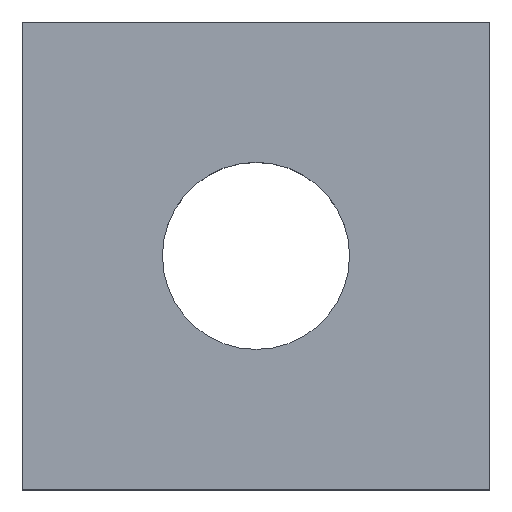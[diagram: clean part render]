
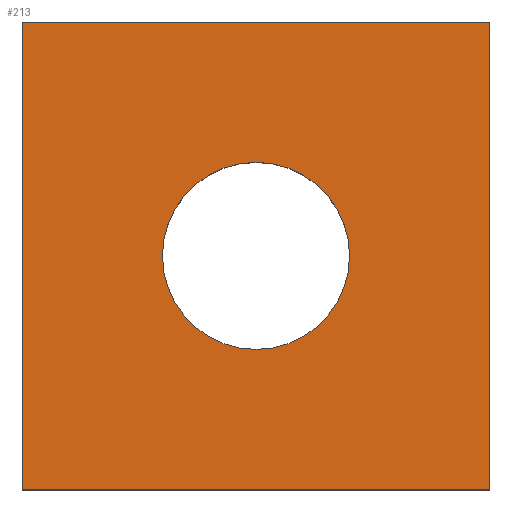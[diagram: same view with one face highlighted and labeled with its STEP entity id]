
A CAD part, top view. The second image highlights one B-rep face of the part: STEP entity #213.
In plain terms, the highlighted planar face has unit normal (0, 0, 1).
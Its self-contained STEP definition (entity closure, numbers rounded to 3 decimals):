
#24 = VERTEX_POINT('',#25);
#25 = CARTESIAN_POINT('',(-6.,-6.,3.5));
#32 = PLANE('',#33);
#33 = AXIS2_PLACEMENT_3D('',#34,#35,#36);
#34 = CARTESIAN_POINT('',(-6.,-6.,0.));
#35 = DIRECTION('',(1.,0.,-0.));
#36 = DIRECTION('',(0.,0.,1.));
#44 = PLANE('',#45);
#45 = AXIS2_PLACEMENT_3D('',#46,#47,#48);
#46 = CARTESIAN_POINT('',(-6.,-6.,0.));
#47 = DIRECTION('',(-0.,1.,0.));
#48 = DIRECTION('',(0.,0.,1.));
#85 = VERTEX_POINT('',#86);
#86 = CARTESIAN_POINT('',(-6.,6.,3.5));
#100 = PLANE('',#101);
#101 = AXIS2_PLACEMENT_3D('',#102,#103,#104);
#102 = CARTESIAN_POINT('',(-6.,6.,0.));
#103 = DIRECTION('',(-0.,1.,0.));
#104 = DIRECTION('',(0.,0.,1.));
#112 = EDGE_CURVE('',#24,#85,#113,.T.);
#113 = SURFACE_CURVE('',#114,(#118,#125),.PCURVE_S1.);
#114 = LINE('',#115,#116);
#115 = CARTESIAN_POINT('',(-6.,-6.,3.5));
#116 = VECTOR('',#117,1.);
#117 = DIRECTION('',(-0.,1.,0.));
#118 = PCURVE('',#32,#119);
#119 = DEFINITIONAL_REPRESENTATION('',(#120),#124);
#120 = LINE('',#121,#122);
#121 = CARTESIAN_POINT('',(3.5,0.));
#122 = VECTOR('',#123,1.);
#123 = DIRECTION('',(0.,-1.));
#124 = ( GEOMETRIC_REPRESENTATION_CONTEXT(2) 
PARAMETRIC_REPRESENTATION_CONTEXT() REPRESENTATION_CONTEXT('2D SPACE',''
  ) );
#125 = PCURVE('',#126,#131);
#126 = PLANE('',#127);
#127 = AXIS2_PLACEMENT_3D('',#128,#129,#130);
#128 = CARTESIAN_POINT('',(-6.,-6.,3.5));
#129 = DIRECTION('',(0.,0.,1.));
#130 = DIRECTION('',(1.,0.,-0.));
#131 = DEFINITIONAL_REPRESENTATION('',(#132),#136);
#132 = LINE('',#133,#134);
#133 = CARTESIAN_POINT('',(0.,0.));
#134 = VECTOR('',#135,1.);
#135 = DIRECTION('',(0.,1.));
#136 = ( GEOMETRIC_REPRESENTATION_CONTEXT(2) 
PARAMETRIC_REPRESENTATION_CONTEXT() REPRESENTATION_CONTEXT('2D SPACE',''
  ) );
#165 = EDGE_CURVE('',#24,#166,#168,.T.);
#166 = VERTEX_POINT('',#167);
#167 = CARTESIAN_POINT('',(6.,-6.,3.5));
#168 = SURFACE_CURVE('',#169,(#173,#180),.PCURVE_S1.);
#169 = LINE('',#170,#171);
#170 = CARTESIAN_POINT('',(-6.,-6.,3.5));
#171 = VECTOR('',#172,1.);
#172 = DIRECTION('',(1.,0.,-0.));
#173 = PCURVE('',#44,#174);
#174 = DEFINITIONAL_REPRESENTATION('',(#175),#179);
#175 = LINE('',#176,#177);
#176 = CARTESIAN_POINT('',(3.5,0.));
#177 = VECTOR('',#178,1.);
#178 = DIRECTION('',(0.,1.));
#179 = ( GEOMETRIC_REPRESENTATION_CONTEXT(2) 
PARAMETRIC_REPRESENTATION_CONTEXT() REPRESENTATION_CONTEXT('2D SPACE',''
  ) );
#180 = PCURVE('',#126,#181);
#181 = DEFINITIONAL_REPRESENTATION('',(#182),#186);
#182 = LINE('',#183,#184);
#183 = CARTESIAN_POINT('',(0.,0.));
#184 = VECTOR('',#185,1.);
#185 = DIRECTION('',(1.,0.));
#186 = ( GEOMETRIC_REPRESENTATION_CONTEXT(2) 
PARAMETRIC_REPRESENTATION_CONTEXT() REPRESENTATION_CONTEXT('2D SPACE',''
  ) );
#202 = PLANE('',#203);
#203 = AXIS2_PLACEMENT_3D('',#204,#205,#206);
#204 = CARTESIAN_POINT('',(6.,-6.,0.));
#205 = DIRECTION('',(1.,0.,-0.));
#206 = DIRECTION('',(0.,0.,1.));
#213 = ADVANCED_FACE('',(#214,#262),#126,.T.);
#214 = FACE_BOUND('',#215,.T.);
#215 = EDGE_LOOP('',(#216,#217,#218,#241));
#216 = ORIENTED_EDGE('',*,*,#112,.F.);
#217 = ORIENTED_EDGE('',*,*,#165,.T.);
#218 = ORIENTED_EDGE('',*,*,#219,.T.);
#219 = EDGE_CURVE('',#166,#220,#222,.T.);
#220 = VERTEX_POINT('',#221);
#221 = CARTESIAN_POINT('',(6.,6.,3.5));
#222 = SURFACE_CURVE('',#223,(#227,#234),.PCURVE_S1.);
#223 = LINE('',#224,#225);
#224 = CARTESIAN_POINT('',(6.,-6.,3.5));
#225 = VECTOR('',#226,1.);
#226 = DIRECTION('',(-0.,1.,0.));
#227 = PCURVE('',#126,#228);
#228 = DEFINITIONAL_REPRESENTATION('',(#229),#233);
#229 = LINE('',#230,#231);
#230 = CARTESIAN_POINT('',(12.,0.));
#231 = VECTOR('',#232,1.);
#232 = DIRECTION('',(0.,1.));
#233 = ( GEOMETRIC_REPRESENTATION_CONTEXT(2) 
PARAMETRIC_REPRESENTATION_CONTEXT() REPRESENTATION_CONTEXT('2D SPACE',''
  ) );
#234 = PCURVE('',#202,#235);
#235 = DEFINITIONAL_REPRESENTATION('',(#236),#240);
#236 = LINE('',#237,#238);
#237 = CARTESIAN_POINT('',(3.5,0.));
#238 = VECTOR('',#239,1.);
#239 = DIRECTION('',(0.,-1.));
#240 = ( GEOMETRIC_REPRESENTATION_CONTEXT(2) 
PARAMETRIC_REPRESENTATION_CONTEXT() REPRESENTATION_CONTEXT('2D SPACE',''
  ) );
#241 = ORIENTED_EDGE('',*,*,#242,.F.);
#242 = EDGE_CURVE('',#85,#220,#243,.T.);
#243 = SURFACE_CURVE('',#244,(#248,#255),.PCURVE_S1.);
#244 = LINE('',#245,#246);
#245 = CARTESIAN_POINT('',(-6.,6.,3.5));
#246 = VECTOR('',#247,1.);
#247 = DIRECTION('',(1.,0.,-0.));
#248 = PCURVE('',#126,#249);
#249 = DEFINITIONAL_REPRESENTATION('',(#250),#254);
#250 = LINE('',#251,#252);
#251 = CARTESIAN_POINT('',(0.,12.));
#252 = VECTOR('',#253,1.);
#253 = DIRECTION('',(1.,0.));
#254 = ( GEOMETRIC_REPRESENTATION_CONTEXT(2) 
PARAMETRIC_REPRESENTATION_CONTEXT() REPRESENTATION_CONTEXT('2D SPACE',''
  ) );
#255 = PCURVE('',#100,#256);
#256 = DEFINITIONAL_REPRESENTATION('',(#257),#261);
#257 = LINE('',#258,#259);
#258 = CARTESIAN_POINT('',(3.5,0.));
#259 = VECTOR('',#260,1.);
#260 = DIRECTION('',(0.,1.));
#261 = ( GEOMETRIC_REPRESENTATION_CONTEXT(2) 
PARAMETRIC_REPRESENTATION_CONTEXT() REPRESENTATION_CONTEXT('2D SPACE',''
  ) );
#262 = FACE_BOUND('',#263,.T.);
#263 = EDGE_LOOP('',(#264));
#264 = ORIENTED_EDGE('',*,*,#265,.F.);
#265 = EDGE_CURVE('',#266,#266,#268,.T.);
#266 = VERTEX_POINT('',#267);
#267 = CARTESIAN_POINT('',(2.4,0.,3.5));
#268 = SURFACE_CURVE('',#269,(#274,#281),.PCURVE_S1.);
#269 = CIRCLE('',#270,2.4);
#270 = AXIS2_PLACEMENT_3D('',#271,#272,#273);
#271 = CARTESIAN_POINT('',(0.,0.,3.5));
#272 = DIRECTION('',(0.,0.,1.));
#273 = DIRECTION('',(1.,0.,-0.));
#274 = PCURVE('',#126,#275);
#275 = DEFINITIONAL_REPRESENTATION('',(#276),#280);
#276 = CIRCLE('',#277,2.4);
#277 = AXIS2_PLACEMENT_2D('',#278,#279);
#278 = CARTESIAN_POINT('',(6.,6.));
#279 = DIRECTION('',(1.,0.));
#280 = ( GEOMETRIC_REPRESENTATION_CONTEXT(2) 
PARAMETRIC_REPRESENTATION_CONTEXT() REPRESENTATION_CONTEXT('2D SPACE',''
  ) );
#281 = PCURVE('',#282,#287);
#282 = CYLINDRICAL_SURFACE('',#283,2.4);
#283 = AXIS2_PLACEMENT_3D('',#284,#285,#286);
#284 = CARTESIAN_POINT('',(0.,0.,-0.1));
#285 = DIRECTION('',(0.,0.,1.));
#286 = DIRECTION('',(1.,0.,-0.));
#287 = DEFINITIONAL_REPRESENTATION('',(#288),#292);
#288 = LINE('',#289,#290);
#289 = CARTESIAN_POINT('',(0.,3.6));
#290 = VECTOR('',#291,1.);
#291 = DIRECTION('',(1.,0.));
#292 = ( GEOMETRIC_REPRESENTATION_CONTEXT(2) 
PARAMETRIC_REPRESENTATION_CONTEXT() REPRESENTATION_CONTEXT('2D SPACE',''
  ) );
